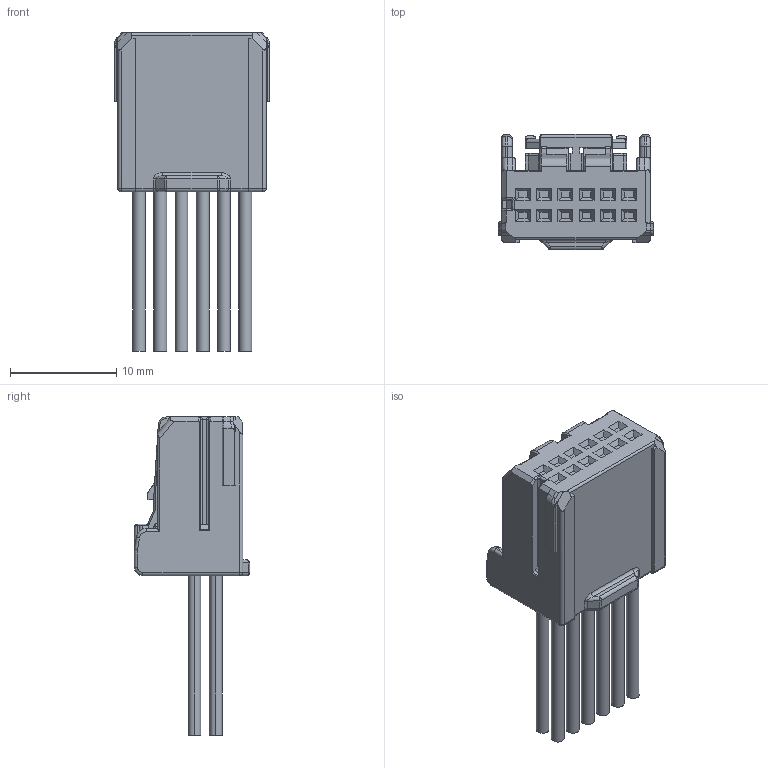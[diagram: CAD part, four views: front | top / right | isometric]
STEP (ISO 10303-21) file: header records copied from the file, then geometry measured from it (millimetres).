
FILE_DESCRIPTION (( 'STEP AP203' ), '1' );
FILE_NAME ('ISHV 12P FEMALE CONNECTOR.STEP', '2018-08-20T12:34:32', ( '' ), ( '' ), 'SwSTEP 2.0', 'SolidWorks 2017', '' );
FILE_SCHEMA (( 'CONFIG_CONTROL_DESIGN' ));
Length unit declared in the file: millimetre
Products named in the file (4): ISHV 12P FEMALE CONNECTOR; V0027-91012_ISHV_CONNECTOR_12P_FEMALE_HOUSING_穴埋め; V0027-92012-ISH_&_ISHV_CONNECTOR_12P_FEMALE_RETAINER_ŒŠ–„‚ß; ケーブル-0.3sq_ケーブル20mm
Assembly tree (14 placements, depth 2):
  ISHV 12P FEMALE CONNECTOR
    V0027-91012_ISHV_CONNECTOR_12P_FEMALE_HOUSING_穴埋め
    V0027-92012-ISH_&_ISHV_CONNECTOR_12P_FEMALE_RETAINER_ŒŠ–„‚ß
    ケーブル-0.3sq_ケーブル20mm  x12
Bounding box: 14.6 x 10.85 x 29.95 mm (x, y, z)
Volume: 1936.2 mm3; surface area: 2370.6 mm2
Topology: 14 solids, 14 shells, 600 faces, 1510 edges, 940 vertices
Faces by surface type: plane 352, cylinder 190, torus 26, bspline 18, sphere 10, cone 4
Entity records: 17726 total; most frequent: CARTESIAN_POINT 3810, ORIENTED_EDGE 2852, DIRECTION 2624, EDGE_CURVE 1426, VECTOR 1044, LINE 1044, VERTEX_POINT 896, AXIS2_PLACEMENT_3D 790
